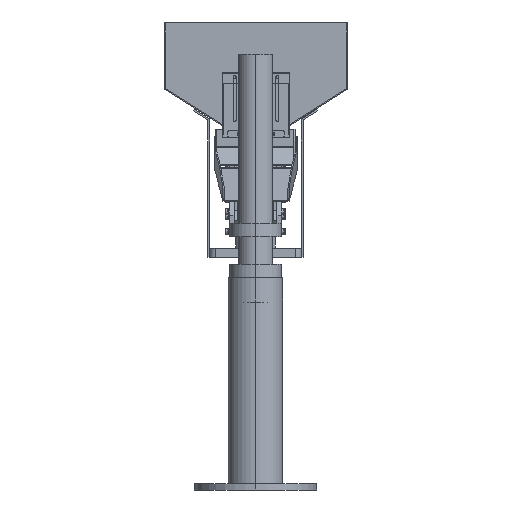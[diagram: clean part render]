
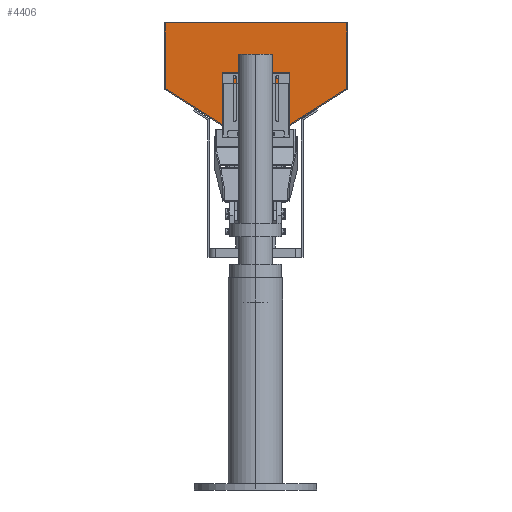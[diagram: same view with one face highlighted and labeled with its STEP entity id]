
A CAD part, left-side view. The second image highlights one B-rep face of the part: STEP entity #4406.
In plain terms, the highlighted planar face has unit normal (-1, 0, 0).
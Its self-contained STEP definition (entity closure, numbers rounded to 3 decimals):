
#232 = VERTEX_POINT ( 'NONE', #20654 ) ;
#316 = DIRECTION ( 'NONE',  ( 0., 0., 1. ) ) ;
#416 = EDGE_CURVE ( 'NONE', #14882, #232, #12752, .T. ) ;
#507 = CARTESIAN_POINT ( 'NONE',  ( -626.071, -99.51, 812.277 ) ) ;
#823 = ORIENTED_EDGE ( 'NONE', *, *, #15934, .T. ) ;
#1305 = CIRCLE ( 'NONE', #3209, 2.1 ) ;
#1392 = CARTESIAN_POINT ( 'NONE',  ( -626.071, 15.49, 831.821 ) ) ;
#1446 = EDGE_CURVE ( 'NONE', #37532, #30820, #23670, .T. ) ;
#1654 = VECTOR ( 'NONE', #23285, 1000. ) ;
#2011 = PLANE ( 'NONE',  #27402 ) ;
#2215 = LINE ( 'NONE', #38402, #18466 ) ;
#2997 = DIRECTION ( 'NONE',  ( 0., 1., 0. ) ) ;
#3209 = AXIS2_PLACEMENT_3D ( 'NONE', #37969, #35031, #8074 ) ;
#3691 = LINE ( 'NONE', #22546, #14729 ) ;
#4154 = CIRCLE ( 'NONE', #21104, 2.1 ) ;
#4406 = ADVANCED_FACE ( 'NONE', ( #29555, #11630, #11430 ), #2011, .F. ) ;
#4478 = CARTESIAN_POINT ( 'NONE',  ( -626.071, -3.01, 821.821 ) ) ;
#5015 = LINE ( 'NONE', #5211, #1654 ) ;
#5211 = CARTESIAN_POINT ( 'NONE',  ( -626.071, -4.51, 737.62 ) ) ;
#5947 = EDGE_CURVE ( 'NONE', #29032, #38943, #10034, .T. ) ;
#5952 = ORIENTED_EDGE ( 'NONE', *, *, #34016, .F. ) ;
#6081 = CARTESIAN_POINT ( 'NONE',  ( -626.071, 105.49, 737.62 ) ) ;
#7413 = VERTEX_POINT ( 'NONE', #29226 ) ;
#7768 = CARTESIAN_POINT ( 'NONE',  ( -626.071, -99.51, 921.921 ) ) ;
#7811 = CARTESIAN_POINT ( 'NONE',  ( -626.071, 85.49, 833.921 ) ) ;
#7877 = CARTESIAN_POINT ( 'NONE',  ( -626.071, -3.01, 737.62 ) ) ;
#7999 = EDGE_CURVE ( 'NONE', #30820, #37532, #16070, .T. ) ;
#8074 = DIRECTION ( 'NONE',  ( 0., 0., -1. ) ) ;
#8075 = LINE ( 'NONE', #7877, #35248 ) ;
#8110 = EDGE_CURVE ( 'NONE', #38866, #23066, #4154, .T. ) ;
#8148 = LINE ( 'NONE', #14406, #34140 ) ;
#8390 = DIRECTION ( 'NONE',  ( 0., 0.845, -0.535 ) ) ;
#8890 = ORIENTED_EDGE ( 'NONE', *, *, #33341, .F. ) ;
#9094 = DIRECTION ( 'NONE',  ( -1., 0., 0. ) ) ;
#9632 = DIRECTION ( 'NONE',  ( 0., 0., -1. ) ) ;
#10034 = LINE ( 'NONE', #22800, #37585 ) ;
#10075 = CARTESIAN_POINT ( 'NONE',  ( -626.071, -3.01, 737.62 ) ) ;
#10700 = CARTESIAN_POINT ( 'NONE',  ( -626.071, -4.51, 737.62 ) ) ;
#11430 = FACE_OUTER_BOUND ( 'NONE', #27752, .T. ) ;
#11484 = VECTOR ( 'NONE', #23260, 1000. ) ;
#11630 = FACE_BOUND ( 'NONE', #29763, .T. ) ;
#11667 = VECTOR ( 'NONE', #8390, 1000. ) ;
#12722 = EDGE_CURVE ( 'NONE', #30672, #32812, #26762, .T. ) ;
#12752 = LINE ( 'NONE', #35345, #11667 ) ;
#13176 = VERTEX_POINT ( 'NONE', #26900 ) ;
#13367 = DIRECTION ( 'NONE',  ( -1., 0., 0. ) ) ;
#13492 = EDGE_CURVE ( 'NONE', #232, #30672, #5015, .T. ) ;
#14249 = ORIENTED_EDGE ( 'NONE', *, *, #36519, .F. ) ;
#14406 = CARTESIAN_POINT ( 'NONE',  ( -626.071, 103.99, 752.181 ) ) ;
#14565 = DIRECTION ( 'NONE',  ( 0., 1., 0. ) ) ;
#14729 = VECTOR ( 'NONE', #36739, 1000. ) ;
#14813 = DIRECTION ( 'NONE',  ( 0., 0., 1. ) ) ;
#14882 = VERTEX_POINT ( 'NONE', #507 ) ;
#15151 = EDGE_CURVE ( 'NONE', #33472, #18713, #29603, .T. ) ;
#15934 = EDGE_CURVE ( 'NONE', #16307, #32812, #8075, .T. ) ;
#16070 = CIRCLE ( 'NONE', #22340, 2.1 ) ;
#16307 = VERTEX_POINT ( 'NONE', #4478 ) ;
#16720 = DIRECTION ( 'NONE',  ( 0., 0., -1. ) ) ;
#18106 = DIRECTION ( 'NONE',  ( -1., 0., 0. ) ) ;
#18151 = ORIENTED_EDGE ( 'NONE', *, *, #38471, .F. ) ;
#18466 = VECTOR ( 'NONE', #38214, 1000. ) ;
#18487 = CARTESIAN_POINT ( 'NONE',  ( -626.071, 85.49, 831.821 ) ) ;
#18713 = VERTEX_POINT ( 'NONE', #23651 ) ;
#18734 = CARTESIAN_POINT ( 'NONE',  ( -626.071, 103.99, 737.62 ) ) ;
#18844 = VERTEX_POINT ( 'NONE', #18734 ) ;
#19845 = CARTESIAN_POINT ( 'NONE',  ( -626.071, 200.49, 921.921 ) ) ;
#19941 = DIRECTION ( 'NONE',  ( 0., 0., 1. ) ) ;
#20211 = ORIENTED_EDGE ( 'NONE', *, *, #7999, .F. ) ;
#20654 = CARTESIAN_POINT ( 'NONE',  ( -626.071, -4.51, 752.181 ) ) ;
#21074 = DIRECTION ( 'NONE',  ( 0., 0., -1. ) ) ;
#21104 = AXIS2_PLACEMENT_3D ( 'NONE', #1392, #13367, #22425 ) ;
#22340 = AXIS2_PLACEMENT_3D ( 'NONE', #27560, #9094, #21074 ) ;
#22425 = DIRECTION ( 'NONE',  ( 0., 0., -1. ) ) ;
#22546 = CARTESIAN_POINT ( 'NONE',  ( -626.071, -99.51, 812.277 ) ) ;
#22647 = ORIENTED_EDGE ( 'NONE', *, *, #8110, .F. ) ;
#22800 = CARTESIAN_POINT ( 'NONE',  ( -626.071, -5435.235, 921.921 ) ) ;
#22879 = DIRECTION ( 'NONE',  ( 0., 0.845, 0.535 ) ) ;
#22902 = EDGE_LOOP ( 'NONE', ( #20211, #25830 ) ) ;
#23043 = CARTESIAN_POINT ( 'NONE',  ( -626.071, -5435.235, 553.654 ) ) ;
#23066 = VERTEX_POINT ( 'NONE', #32983 ) ;
#23260 = DIRECTION ( 'NONE',  ( 0., 1., 0. ) ) ;
#23262 = ORIENTED_EDGE ( 'NONE', *, *, #15151, .F. ) ;
#23285 = DIRECTION ( 'NONE',  ( 0., 0., -1. ) ) ;
#23305 = EDGE_CURVE ( 'NONE', #18713, #13176, #37854, .T. ) ;
#23651 = CARTESIAN_POINT ( 'NONE',  ( -626.071, 105.49, 752.181 ) ) ;
#23670 = CIRCLE ( 'NONE', #35648, 2.1 ) ;
#25110 = VECTOR ( 'NONE', #316, 1000. ) ;
#25520 = VECTOR ( 'NONE', #14813, 1000. ) ;
#25830 = ORIENTED_EDGE ( 'NONE', *, *, #1446, .F. ) ;
#26017 = CARTESIAN_POINT ( 'NONE',  ( -626.071, 200.49, 812.277 ) ) ;
#26762 = LINE ( 'NONE', #32324, #28632 ) ;
#26900 = CARTESIAN_POINT ( 'NONE',  ( -626.071, 200.49, 812.277 ) ) ;
#27253 = CARTESIAN_POINT ( 'NONE',  ( -626.071, 200.49, 921.821 ) ) ;
#27402 = AXIS2_PLACEMENT_3D ( 'NONE', #23043, #29366, #14565 ) ;
#27560 = CARTESIAN_POINT ( 'NONE',  ( -626.071, 85.49, 831.821 ) ) ;
#27752 = EDGE_LOOP ( 'NONE', ( #23262, #38918, #35629, #14249, #823, #36714, #37949, #33425, #18151, #36960, #5952, #38815 ) ) ;
#28632 = VECTOR ( 'NONE', #2997, 1000. ) ;
#29001 = CARTESIAN_POINT ( 'NONE',  ( -626.071, 85.49, 829.721 ) ) ;
#29032 = VERTEX_POINT ( 'NONE', #19845 ) ;
#29226 = CARTESIAN_POINT ( 'NONE',  ( -626.071, 103.99, 821.821 ) ) ;
#29366 = DIRECTION ( 'NONE',  ( 1., 0., 0. ) ) ;
#29555 = FACE_BOUND ( 'NONE', #22902, .T. ) ;
#29603 = LINE ( 'NONE', #32164, #25520 ) ;
#29763 = EDGE_LOOP ( 'NONE', ( #8890, #22647 ) ) ;
#30068 = EDGE_CURVE ( 'NONE', #18844, #33472, #2215, .T. ) ;
#30672 = VERTEX_POINT ( 'NONE', #10700 ) ;
#30820 = VERTEX_POINT ( 'NONE', #29001 ) ;
#31942 = VECTOR ( 'NONE', #22879, 1000. ) ;
#31956 = CARTESIAN_POINT ( 'NONE',  ( -626.071, -5435.235, 821.821 ) ) ;
#32164 = CARTESIAN_POINT ( 'NONE',  ( -626.071, 105.49, 752.181 ) ) ;
#32324 = CARTESIAN_POINT ( 'NONE',  ( -626.071, -5435.235, 737.62 ) ) ;
#32812 = VERTEX_POINT ( 'NONE', #10075 ) ;
#32983 = CARTESIAN_POINT ( 'NONE',  ( -626.071, 15.49, 829.721 ) ) ;
#33341 = EDGE_CURVE ( 'NONE', #23066, #38866, #1305, .T. ) ;
#33425 = ORIENTED_EDGE ( 'NONE', *, *, #416, .F. ) ;
#33472 = VERTEX_POINT ( 'NONE', #6081 ) ;
#33560 = CARTESIAN_POINT ( 'NONE',  ( -626.071, 15.49, 833.921 ) ) ;
#34016 = EDGE_CURVE ( 'NONE', #13176, #29032, #36130, .T. ) ;
#34140 = VECTOR ( 'NONE', #19941, 1000. ) ;
#34635 = DIRECTION ( 'NONE',  ( 0., -1., 0. ) ) ;
#35031 = DIRECTION ( 'NONE',  ( -1., 0., 0. ) ) ;
#35248 = VECTOR ( 'NONE', #16720, 1000. ) ;
#35345 = CARTESIAN_POINT ( 'NONE',  ( -626.071, -4.51, 752.181 ) ) ;
#35629 = ORIENTED_EDGE ( 'NONE', *, *, #36521, .T. ) ;
#35648 = AXIS2_PLACEMENT_3D ( 'NONE', #18487, #18106, #9632 ) ;
#36130 = LINE ( 'NONE', #27253, #25110 ) ;
#36519 = EDGE_CURVE ( 'NONE', #16307, #7413, #38631, .T. ) ;
#36521 = EDGE_CURVE ( 'NONE', #18844, #7413, #8148, .T. ) ;
#36714 = ORIENTED_EDGE ( 'NONE', *, *, #12722, .F. ) ;
#36739 = DIRECTION ( 'NONE',  ( 0., 0., -1. ) ) ;
#36960 = ORIENTED_EDGE ( 'NONE', *, *, #5947, .F. ) ;
#37532 = VERTEX_POINT ( 'NONE', #7811 ) ;
#37585 = VECTOR ( 'NONE', #34635, 1000. ) ;
#37854 = LINE ( 'NONE', #26017, #31942 ) ;
#37949 = ORIENTED_EDGE ( 'NONE', *, *, #13492, .F. ) ;
#37969 = CARTESIAN_POINT ( 'NONE',  ( -626.071, 15.49, 831.821 ) ) ;
#38214 = DIRECTION ( 'NONE',  ( 0., 1., 0. ) ) ;
#38402 = CARTESIAN_POINT ( 'NONE',  ( -626.071, -5435.235, 737.62 ) ) ;
#38471 = EDGE_CURVE ( 'NONE', #38943, #14882, #3691, .T. ) ;
#38631 = LINE ( 'NONE', #31956, #11484 ) ;
#38815 = ORIENTED_EDGE ( 'NONE', *, *, #23305, .F. ) ;
#38866 = VERTEX_POINT ( 'NONE', #33560 ) ;
#38918 = ORIENTED_EDGE ( 'NONE', *, *, #30068, .F. ) ;
#38943 = VERTEX_POINT ( 'NONE', #7768 ) ;
